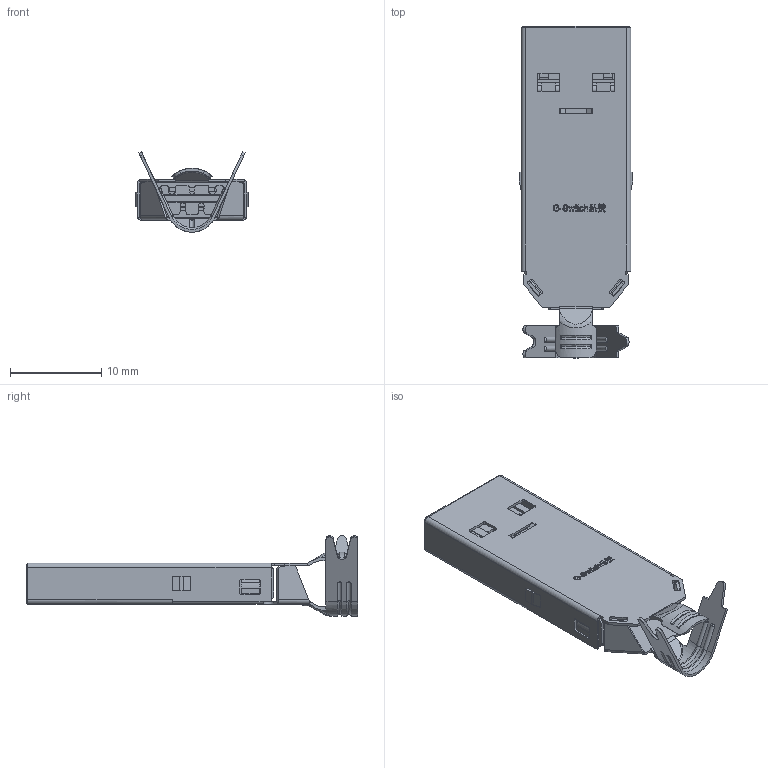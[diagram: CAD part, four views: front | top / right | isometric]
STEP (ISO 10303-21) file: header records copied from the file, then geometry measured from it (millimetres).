
FILE_DESCRIPTION (( 'STEP AP203' ), '1' );
FILE_NAME ('GT-3A9002A-000G0.STEP', '2025-02-17T07:22:05', ( '' ), ( '' ), 'SwSTEP 2.0', 'SolidWorks 2023', '' );
FILE_SCHEMA (( 'CONFIG_CONTROL_DESIGN' ));
Length unit declared in the file: millimetre
Products named in the file (7): MSBR-12_1.stp; XIANJIA-E6.stp; MSBR-14_1.stp; UB3M-BBP000100-0030.stp; USB3-AM-ZHUSU_ASM16_ASM1616_ASM_ASM.stp; MSBR-13_1.stp; GT-3A9002A-000G0
Assembly tree (6 placements, depth 4):
  GT-3A9002A-000G0
    UB3M-BBP000100-0030.stp
      USB3-AM-ZHUSU_ASM16_ASM1616_ASM_ASM.stp
        MSBR-14_1.stp
        MSBR-13_1.stp
        MSBR-12_1.stp
      XIANJIA-E6.stp
Bounding box: 12.4 x 36.3 x 8.8 mm (x, y, z)
Volume: 831.9 mm3; surface area: 3569.7 mm2
Topology: 4 solids, 13 shells, 1370 faces, 3859 edges, 2554 vertices
Faces by surface type: plane 971, cylinder 281, bspline 88, torus 26, cone 4
Entity records: 49829 total; most frequent: CARTESIAN_POINT 13975, ORIENTED_EDGE 7710, DIRECTION 6680, EDGE_CURVE 3855, VECTOR 2962, LINE 2962, VERTEX_POINT 2554, AXIS2_PLACEMENT_3D 1859
